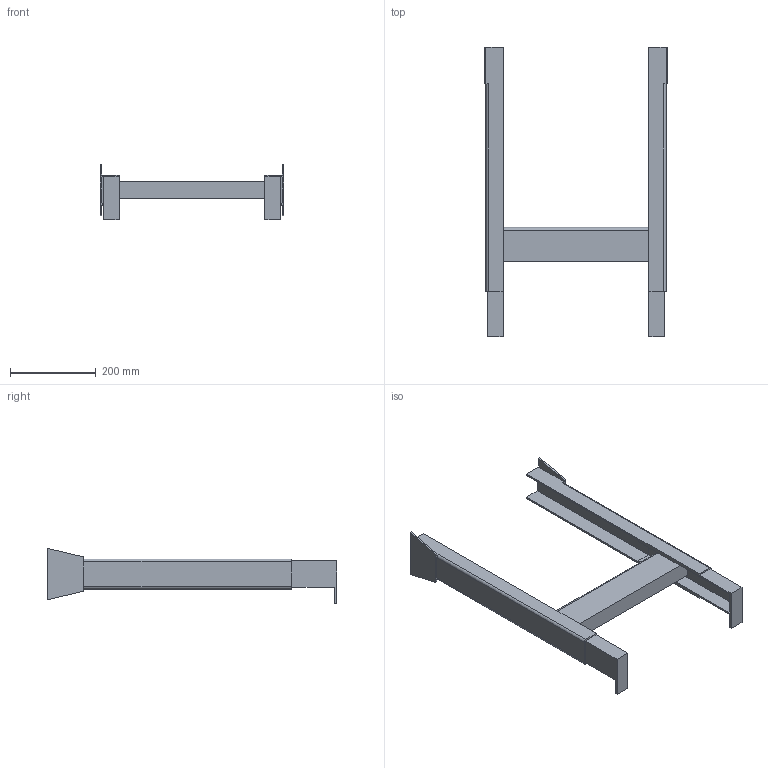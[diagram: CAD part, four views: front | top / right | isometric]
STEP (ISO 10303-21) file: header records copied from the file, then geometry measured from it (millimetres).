
FILE_DESCRIPTION((''),'2;1');
FILE_NAME('C:\Vault_Working_Folder\Designs\Inventor\Lättviktsmodeller\Klart\Midi\ITBG 50-620-675.stp','2012-11-13T13:54:22',('martin.samuelsson'),(''),'Autodesk Inventor 2013','Autodesk Inventor 2013','');
FILE_SCHEMA(('AUTOMOTIVE_DESIGN { 1 0 10303 214 1 1 1 1 }'));
Length unit declared in the file: millimetre
Products named in the file (1): ITBG 50-620-675
Bounding box: 428 x 675 x 129 mm (x, y, z)
Volume: 2320634.7 mm3; surface area: 497113.8 mm2
Topology: 1 solids, 1 shells, 62 faces, 174 edges, 116 vertices
Faces by surface type: plane 56, cylinder 6
Entity records: 2007 total; most frequent: CARTESIAN_POINT 353, ORIENTED_EDGE 348, DIRECTION 312, EDGE_CURVE 174, VECTOR 162, LINE 162, VERTEX_POINT 116, AXIS2_PLACEMENT_3D 75
